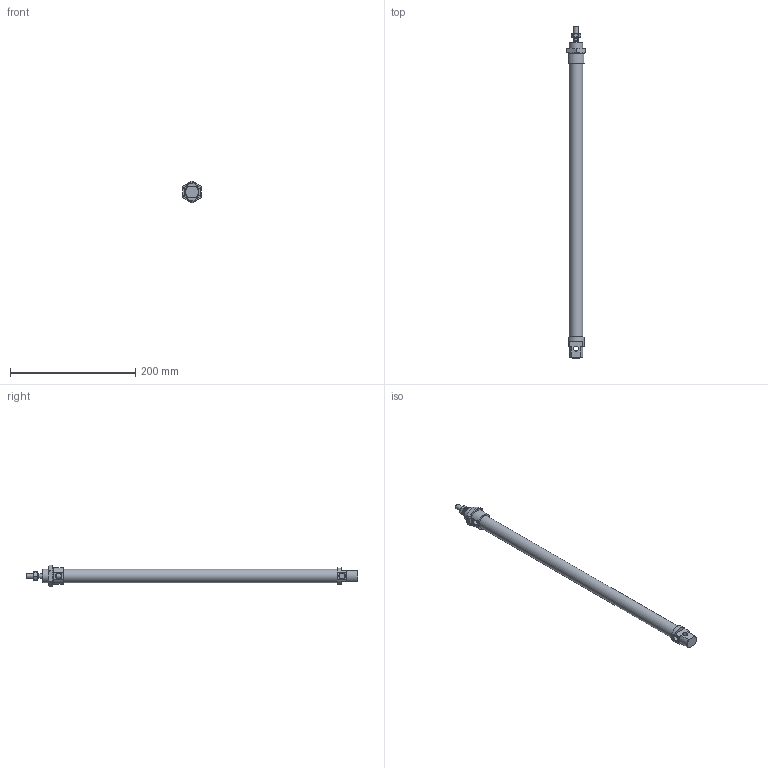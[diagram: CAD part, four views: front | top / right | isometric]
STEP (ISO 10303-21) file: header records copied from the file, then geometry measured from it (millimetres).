
FILE_DESCRIPTION((''),'2;1');
FILE_NAME('I:\Area Tecnica\Disegni\VARIE-3D\Componenti\1280\1280_##_####_#\1280_20_0400.iam.stp','2009-06-04T09:44:44',(''),(''),'Autodesk Inventor 2010','Autodesk Inventor 2010','');
FILE_SCHEMA(('AUTOMOTIVE_DESIGN { 1 0 10303 214 1 1 1 1 }'));
Length unit declared in the file: millimetre
Products named in the file (5): 1280_20_0400; C1280_20_400; S1280_20_400; 1200_20_05; 1200_20_06
Assembly tree (4 placements, depth 2):
  1280_20_0400
    C1280_20_400
    S1280_20_400
    1200_20_05
    1200_20_06
Bounding box: 30 x 530 x 34.64 mm (x, y, z)
Volume: 185552.7 mm3; surface area: 61278.3 mm2
Topology: 4 solids, 4 shells, 92 faces, 204 edges, 125 vertices
Faces by surface type: plane 41, cone 28, bspline 12, cylinder 11
Full cylindrical faces by diameter (mm): 6.5 x1, 8 x4, 21.2 x1, 22 x1
Entity records: 2742 total; most frequent: CARTESIAN_POINT 697, DIRECTION 376, ORIENTED_EDGE 356, EDGE_CURVE 178, AXIS2_PLACEMENT_3D 163, EDGE_LOOP 124, VERTEX_POINT 118, STYLED_ITEM 96
